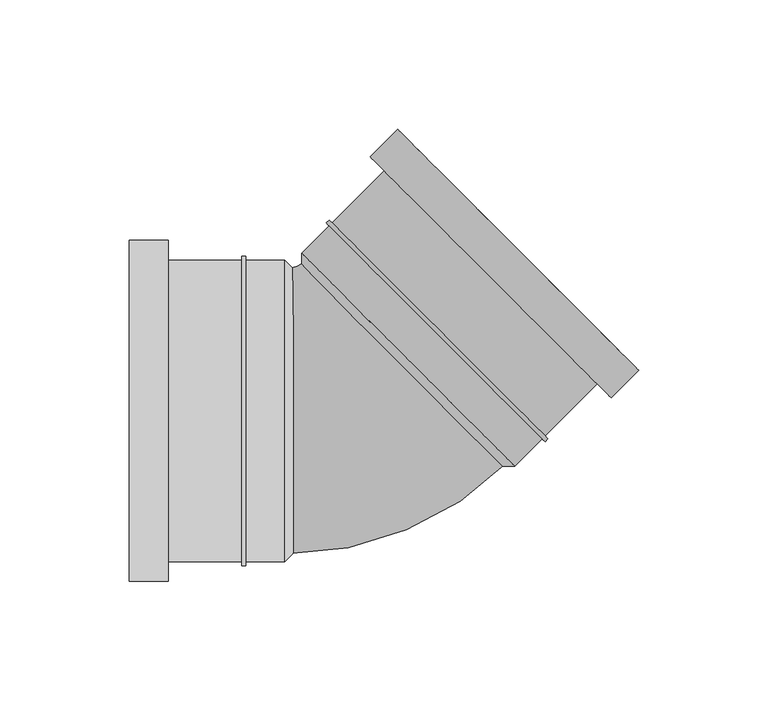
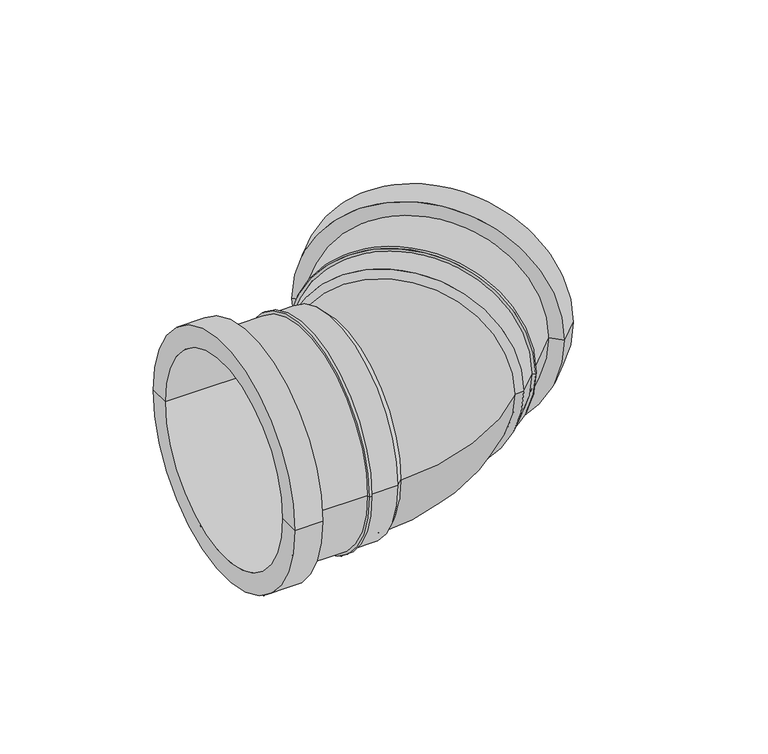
"""IFC4 building model written with IfcOpenShell, lengths in millimetres: pipe fitting geometry, UN_PIF_PP bend S-S_SH_PipeLife : Black, var. DN/OD (max. ø125, nested)."""

from ifc_helpers import new_model, si_unit, point, frame, origin, place, context, project, spatial, polyline, circle_curve, ellipse_curve, trimmed, source, transform, mapped, element, save
from ifc_brep_helpers import plane_surface, cylinder_surface, revolved_surface, advanced_brep


def pipe_fitting_378df008(model_context):
    return source(origin(), model_context, "Body", "AdvancedBrep", [
        advanced_brep(
        [(-24.7, 55.0, 0.0), (-24.7, -55.0, 0.0), (-28.0, -58.3, 0.0), (-28.0, 58.3, 0.0), (-88.2, 66.0, 0.0), (-88.2, -66.0, 0.0), (-88.2, -55.0, 0.0), (-88.2, 55.0, 0.0), (-73.15, 66.0, 0.0), (-73.15, -66.0, 0.0), (-73.15, 58.3, 0.0), (-73.15, -58.3, 0.0), (-44.6, 58.3, 0.0), (-44.6, -58.3, 0.0), (-44.6, 59.85, 0.0), (-44.6, -59.85, 0.0), (-43.05, 59.85, 0.0), (-43.05, -59.85, 0.0), (-43.05, 58.3, 0.0), (-43.05, -58.3, 0.0)],
        [
            (0, 1, circle_curve(frame((-24.7, 0.0, 0.0), z_axis=(-1.0, 0.0, 0.0), x_axis=(0.0, -1.0000000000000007, 0.0)), 55.0)),
            (1, 2),
            (2, 3, circle_curve(frame((-28.0, 0.0, 0.0), z_axis=(1.0, 0.0, 0.0), x_axis=(0.0, -1.0000000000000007, 0.0)), 58.3)),
            (3, 0),
            (1, 0, circle_curve(frame((-24.7, 0.0, 0.0), z_axis=(-1.0, 0.0, 0.0), x_axis=(0.0, -1.0000000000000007, 0.0)), 55.0)),
            (3, 2, circle_curve(frame((-28.0, 0.0, 0.0), z_axis=(1.0, 0.0, 0.0), x_axis=(0.0, -1.0000000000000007, 0.0)), 58.3)),
            (4, 5, circle_curve(frame((-88.2, 0.0, 0.0), z_axis=(-1.0, 0.0, 0.0), x_axis=(0.0, -1.0000000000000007, 0.0)), 66.0)),
            (5, 6),
            (6, 7, circle_curve(frame((-88.2, 0.0, 0.0), z_axis=(1.0, 0.0, 0.0), x_axis=(0.0, -1.0000000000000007, 0.0)), 55.0)),
            (7, 4),
            (5, 4, circle_curve(frame((-88.2, 0.0, 0.0), z_axis=(-1.0, 0.0, 0.0), x_axis=(0.0, -1.0000000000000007, 0.0)), 66.0)),
            (7, 6, circle_curve(frame((-88.2, 0.0, 0.0), z_axis=(1.0, 0.0, 0.0), x_axis=(0.0, -1.0000000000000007, 0.0)), 55.0)),
            (8, 9, circle_curve(frame((-73.15, 0.0, 0.0), z_axis=(-1.0, 0.0, 0.0), x_axis=(0.0, -1.0000000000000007, 0.0)), 66.0)),
            (9, 5),
            (4, 8),
            (9, 8, circle_curve(frame((-73.15, 0.0, 0.0), z_axis=(-1.0, 0.0, 0.0), x_axis=(0.0, -1.0000000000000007, 0.0)), 66.0)),
            (10, 11, circle_curve(frame((-73.15, 0.0, 0.0), z_axis=(-1.0, 0.0, 0.0), x_axis=(0.0, -1.0000000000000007, 0.0)), 58.3)),
            (11, 9),
            (8, 10),
            (11, 10, circle_curve(frame((-73.15, 0.0, 0.0), z_axis=(-1.0, 0.0, 0.0), x_axis=(0.0, -1.0000000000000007, 0.0)), 58.3)),
            (12, 13, circle_curve(frame((-44.6, 0.0, 0.0), z_axis=(-1.0, 0.0, 0.0), x_axis=(0.0, -1.0000000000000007, 0.0)), 58.3)),
            (13, 11),
            (10, 12),
            (13, 12, circle_curve(frame((-44.6, 0.0, 0.0), z_axis=(-1.0, 0.0, 0.0), x_axis=(0.0, -1.0000000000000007, 0.0)), 58.3)),
            (14, 15, circle_curve(frame((-44.6, 0.0, 0.0), z_axis=(-1.0, 0.0, 0.0), x_axis=(0.0, -1.0000000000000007, 0.0)), 59.85)),
            (15, 13),
            (12, 14),
            (15, 14, circle_curve(frame((-44.6, 0.0, 0.0), z_axis=(-1.0, 0.0, 0.0), x_axis=(0.0, -1.0000000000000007, 0.0)), 59.85)),
            (16, 17, circle_curve(frame((-43.05, 0.0, 0.0), z_axis=(-1.0, 0.0, 0.0), x_axis=(0.0, -1.0000000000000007, 0.0)), 59.85)),
            (17, 15),
            (14, 16),
            (17, 16, circle_curve(frame((-43.05, 0.0, 0.0), z_axis=(-1.0, 0.0, 0.0), x_axis=(0.0, -1.0000000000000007, 0.0)), 59.85)),
            (18, 19, circle_curve(frame((-43.05, 0.0, 0.0), z_axis=(-1.0, 0.0, 0.0), x_axis=(0.0, -1.0000000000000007, 0.0)), 58.3)),
            (19, 17),
            (16, 18),
            (19, 18, circle_curve(frame((-43.05, 0.0, 0.0), z_axis=(-1.0, 0.0, 0.0), x_axis=(0.0, -1.0000000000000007, 0.0)), 58.3)),
            (2, 19),
            (18, 3),
            (6, 1),
            (0, 7),
        ],
        [
            revolved_surface(polyline([(-28.0, -58.3, 0.0), (-24.7, -55.0, 0.0)]), (-88.2, 0.0, 0.0), (1.0000000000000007, 0.0, 0.0)),
            plane_surface(frame((-88.2, 0.0, 0.0), z_axis=(-1.0, 0.0, 0.0), x_axis=(0.0, -1.0, 0.0))),
            cylinder_surface(frame((-88.2, 0.0, 0.0), z_axis=(1.0000000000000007, 0.0, 0.0), x_axis=(0.0, -1.0000000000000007, 0.0)), 66.0),
            plane_surface(frame((-73.15, 0.0, 0.0), z_axis=(1.0, 0.0, 0.0), x_axis=(0.0, -1.0, 0.0))),
            cylinder_surface(frame((-88.2, 0.0, 0.0), z_axis=(1.0000000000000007, 0.0, 0.0), x_axis=(0.0, -1.0000000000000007, 0.0)), 58.3),
            plane_surface(frame((-44.6, 0.0, 0.0), z_axis=(-1.0, 0.0, 0.0), x_axis=(0.0, -1.0, 0.0))),
            cylinder_surface(frame((-88.2, 0.0, 0.0), z_axis=(1.0000000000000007, 0.0, 0.0), x_axis=(0.0, -1.0000000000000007, 0.0)), 59.85),
            plane_surface(frame((-43.05, 0.0, 0.0), z_axis=(1.0, 0.0, 0.0), x_axis=(0.0, -1.0, 0.0))),
            revolved_surface(polyline([(-24.699999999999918, -55.000000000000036, 0.0), (-88.2, -55.000000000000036, 0.0)]), (-88.2, 0.0, 0.0), (1.0000000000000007, 0.0, 0.0)),
        ],
        [
            (0, [[1, 2, 3, 4]]),
            (0, [[5, -4, 6, -2]]),
            (1, [[7, 8, 9, 10]]),
            (1, [[11, -10, 12, -8]]),
            (2, [[13, 14, -7, 15]]),
            (2, [[16, -15, -11, -14]]),
            (3, [[17, 18, -13, 19]]),
            (3, [[20, -19, -16, -18]]),
            (4, [[21, 22, -17, 23]]),
            (4, [[24, -23, -20, -22]]),
            (5, [[25, 26, -21, 27]]),
            (5, [[28, -27, -24, -26]]),
            (6, [[29, 30, -25, 31]]),
            (6, [[32, -31, -28, -30]]),
            (7, [[33, 34, -29, 35]]),
            (7, [[36, -35, -32, -34]]),
            (4, [[-3, 37, -33, 38]]),
            (4, [[-6, -38, -36, -37]]),
            (8, [[-9, 39, -1, 40]]),
            (8, [[-12, -40, -5, -39]]),
        ],
    ),
        advanced_brep(
        [(56.3564105, -21.4253355, 0.0), (-21.4253355, 56.3564105, 0.0), (-21.4253355, 61.0233152, 0.0), (61.0233152, -21.4253355, 0.0), (109.0358657, 15.6977705, 0.0), (15.6977705, 109.0358657, 0.0), (23.4759451, 101.2576911, 0.0), (101.2576911, 23.4759451, 0.0), (98.3939086, 5.0558135, 0.0), (5.0558135, 98.3939086, 0.0), (92.9491864, 10.5005357, 0.0), (10.5005357, 92.9491864, 0.0), (72.7612878, -9.6873629, 0.0), (-9.6873629, 72.7612878, 0.0), (73.8573033, -10.7833784, 0.0), (-10.7833784, 73.8573033, 0.0), (72.7612878, -11.8793939, 0.0), (-11.8793939, 72.7612878, 0.0), (71.6652723, -10.7833784, 0.0), (-10.7833784, 71.6652723, 0.0)],
        [
            (0, 1, circle_curve(frame((17.4655375, 17.4655375, 0.0), z_axis=(0.7071067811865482, 0.707106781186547, 0.0), x_axis=(-0.7071067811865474, 0.7071067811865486, 0.0)), 55.0)),
            (1, 2),
            (2, 3, circle_curve(frame((19.7989899, 19.7989899, 0.0), z_axis=(-0.7071067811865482, -0.707106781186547, 0.0), x_axis=(-0.7071067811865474, 0.7071067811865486, 0.0)), 58.3)),
            (3, 0),
            (1, 0, circle_curve(frame((17.4655375, 17.4655375, 0.0), z_axis=(0.7071067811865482, 0.707106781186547, 0.0), x_axis=(-0.7071067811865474, 0.7071067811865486, 0.0)), 55.0)),
            (3, 2, circle_curve(frame((19.7989899, 19.7989899, 0.0), z_axis=(-0.7071067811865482, -0.707106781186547, 0.0), x_axis=(-0.7071067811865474, 0.7071067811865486, 0.0)), 58.3)),
            (4, 5, circle_curve(frame((62.3668181, 62.3668181, 0.0), z_axis=(0.7071067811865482, 0.707106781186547, 0.0), x_axis=(-0.7071067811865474, 0.7071067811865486, 0.0)), 66.0)),
            (5, 6),
            (6, 7, circle_curve(frame((62.3668181, 62.3668181, 0.0), z_axis=(-0.7071067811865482, -0.707106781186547, 0.0), x_axis=(-0.7071067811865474, 0.7071067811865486, 0.0)), 55.0)),
            (7, 4),
            (5, 4, circle_curve(frame((62.3668181, 62.3668181, 0.0), z_axis=(0.7071067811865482, 0.707106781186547, 0.0), x_axis=(-0.7071067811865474, 0.7071067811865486, 0.0)), 66.0)),
            (7, 6, circle_curve(frame((62.3668181, 62.3668181, 0.0), z_axis=(-0.7071067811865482, -0.707106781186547, 0.0), x_axis=(-0.7071067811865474, 0.7071067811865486, 0.0)), 55.0)),
            (8, 9, circle_curve(frame((51.724861, 51.724861, 0.0), z_axis=(0.7071067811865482, 0.707106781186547, 0.0), x_axis=(-0.7071067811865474, 0.7071067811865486, 0.0)), 66.0)),
            (9, 5),
            (4, 8),
            (9, 8, circle_curve(frame((51.724861, 51.724861, 0.0), z_axis=(0.7071067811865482, 0.707106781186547, 0.0), x_axis=(-0.7071067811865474, 0.7071067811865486, 0.0)), 66.0)),
            (10, 11, circle_curve(frame((51.724861, 51.724861, 0.0), z_axis=(0.7071067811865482, 0.707106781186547, 0.0), x_axis=(-0.7071067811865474, 0.7071067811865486, 0.0)), 58.3)),
            (11, 9),
            (8, 10),
            (11, 10, circle_curve(frame((51.724861, 51.724861, 0.0), z_axis=(0.7071067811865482, 0.707106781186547, 0.0), x_axis=(-0.7071067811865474, 0.7071067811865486, 0.0)), 58.3)),
            (12, 13, circle_curve(frame((31.5369624, 31.5369624, 0.0), z_axis=(0.7071067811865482, 0.707106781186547, 0.0), x_axis=(-0.7071067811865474, 0.7071067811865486, 0.0)), 58.3)),
            (13, 11),
            (10, 12),
            (13, 12, circle_curve(frame((31.5369624, 31.5369624, 0.0), z_axis=(0.7071067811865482, 0.707106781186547, 0.0), x_axis=(-0.7071067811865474, 0.7071067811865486, 0.0)), 58.3)),
            (14, 15, circle_curve(frame((31.5369624, 31.5369624, 0.0), z_axis=(0.7071067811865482, 0.707106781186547, 0.0), x_axis=(-0.7071067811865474, 0.7071067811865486, 0.0)), 59.85)),
            (15, 13),
            (12, 14),
            (15, 14, circle_curve(frame((31.5369624, 31.5369624, 0.0), z_axis=(0.7071067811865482, 0.707106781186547, 0.0), x_axis=(-0.7071067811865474, 0.7071067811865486, 0.0)), 59.85)),
            (16, 17, circle_curve(frame((30.4409469, 30.4409469, 0.0), z_axis=(0.7071067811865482, 0.707106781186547, 0.0), x_axis=(-0.7071067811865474, 0.7071067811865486, 0.0)), 59.85)),
            (17, 15),
            (14, 16),
            (17, 16, circle_curve(frame((30.4409469, 30.4409469, 0.0), z_axis=(0.7071067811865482, 0.707106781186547, 0.0), x_axis=(-0.7071067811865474, 0.7071067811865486, 0.0)), 59.85)),
            (18, 19, circle_curve(frame((30.4409469, 30.4409469, 0.0), z_axis=(0.7071067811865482, 0.707106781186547, 0.0), x_axis=(-0.7071067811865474, 0.7071067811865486, 0.0)), 58.3)),
            (19, 17),
            (16, 18),
            (19, 18, circle_curve(frame((30.4409469, 30.4409469, 0.0), z_axis=(0.7071067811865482, 0.707106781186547, 0.0), x_axis=(-0.7071067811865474, 0.7071067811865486, 0.0)), 58.3)),
            (2, 19),
            (18, 3),
            (6, 1),
            (0, 7),
        ],
        [
            revolved_surface(polyline([(-21.4253355, 61.0233152, 0.0), (-21.4253355, 56.3564105, 0.0)]), (62.3668181, 62.3668181, 0.0), (-0.7071067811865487, -0.7071067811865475, 0.0)),
            plane_surface(frame((62.3668181, 62.3668181, 0.0), z_axis=(0.7071067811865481, 0.7071067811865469, 0.0), x_axis=(-0.7071067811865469, 0.7071067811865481, 0.0))),
            cylinder_surface(frame((62.3668181, 62.3668181, 0.0), z_axis=(-0.7071067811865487, -0.7071067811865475, 0.0), x_axis=(-0.7071067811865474, 0.7071067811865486, 0.0)), 66.0),
            plane_surface(frame((51.724861, 51.724861, 0.0), z_axis=(-0.7071067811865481, -0.7071067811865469, 0.0), x_axis=(-0.7071067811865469, 0.7071067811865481, 0.0))),
            cylinder_surface(frame((62.3668181, 62.3668181, 0.0), z_axis=(-0.7071067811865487, -0.7071067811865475, 0.0), x_axis=(-0.7071067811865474, 0.7071067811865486, 0.0)), 58.3),
            plane_surface(frame((31.5369624, 31.5369624, 0.0), z_axis=(0.7071067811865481, 0.7071067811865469, 0.0), x_axis=(-0.7071067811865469, 0.7071067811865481, 0.0))),
            cylinder_surface(frame((62.3668181, 62.3668181, 0.0), z_axis=(-0.7071067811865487, -0.7071067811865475, 0.0), x_axis=(-0.7071067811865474, 0.7071067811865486, 0.0)), 59.85),
            plane_surface(frame((30.4409469, 30.4409469, 0.0), z_axis=(-0.7071067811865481, -0.7071067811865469, 0.0), x_axis=(-0.7071067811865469, 0.7071067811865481, 0.0))),
            revolved_surface(polyline([(-21.425335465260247, 56.356410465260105, 0.0), (23.475945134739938, 101.2576910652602, 0.0)]), (62.3668181, 62.3668181, 0.0), (-0.7071067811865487, -0.7071067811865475, 0.0)),
        ],
        [
            (0, [[1, 2, 3, 4]]),
            (0, [[5, -4, 6, -2]]),
            (1, [[7, 8, 9, 10]]),
            (1, [[11, -10, 12, -8]]),
            (2, [[13, 14, -7, 15]]),
            (2, [[16, -15, -11, -14]]),
            (3, [[17, 18, -13, 19]]),
            (3, [[20, -19, -16, -18]]),
            (4, [[21, 22, -17, 23]]),
            (4, [[24, -23, -20, -22]]),
            (5, [[25, 26, -21, 27]]),
            (5, [[28, -27, -24, -26]]),
            (6, [[29, 30, -25, 31]]),
            (6, [[32, -31, -28, -30]]),
            (7, [[33, 34, -29, 35]]),
            (7, [[36, -35, -32, -34]]),
            (4, [[-3, 37, -33, 38]]),
            (4, [[-6, -38, -36, -37]]),
            (8, [[-9, 39, -1, 40]]),
            (8, [[-12, -40, -5, -39]]),
        ],
    ),
        advanced_brep(
        [(-28.0, -55.2, 0.0), (-28.0, 55.2, 0.0), (-27.0, -55.2, 0.0), (-27.0, 55.2, 0.0), (-19.9404112, 58.1241774, 0.0), (58.1241774, -19.9404112, 0.0), (58.8312842, -19.2333044, 0.0), (-19.2333044, 58.8312842, 0.0)],
        [
            (0, 1, circle_curve(frame((-28.0, 0.0, 0.0), z_axis=(-1.0, 0.0, 0.0), x_axis=(0.0, 1.0, 0.0)), 55.2)),
            (1, 0, circle_curve(frame((-28.0, 0.0, 0.0), z_axis=(-1.0, 0.0, 0.0), x_axis=(0.0, 1.0, 0.0)), 55.2)),
            (0, 2),
            (2, 3, circle_curve(frame((-27.0, 0.0, 0.0), z_axis=(-1.0, 0.0, 0.0), x_axis=(0.0, 1.0, 0.0)), 55.2)),
            (3, 1),
            (3, 2, circle_curve(frame((-27.0, 0.0, 0.0), z_axis=(-1.0, 0.0, 0.0), x_axis=(0.0, 1.0, 0.0)), 55.2)),
            (4, 3, circle_curve(frame((-27.0, 65.1837662, 0.0), z_axis=(0.0, 0.0, -1.0), x_axis=(0.0, -1.0, 0.0)), 9.9837662)),
            (2, 5, circle_curve(frame((-27.0, 65.1837662, 0.0), z_axis=(0.0, 0.0, 1.0), x_axis=(0.0, -1.0, 0.0)), 120.3837662)),
            (5, 4, circle_curve(frame((19.0918831, 19.0918831, 0.0), z_axis=(-0.7071067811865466, -0.7071067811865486, 0.0), x_axis=(-0.7071067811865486, 0.7071067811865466, 0.0)), 55.2)),
            (4, 5, circle_curve(frame((19.0918831, 19.0918831, 0.0), z_axis=(-0.7071067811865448, -0.7071067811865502, 0.0), x_axis=(-0.7071067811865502, 0.7071067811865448, 0.0)), 55.2)),
            (6, 7, circle_curve(frame((19.7989899, 19.7989899, 0.0), z_axis=(0.7071067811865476, 0.7071067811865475, 0.0), x_axis=(-0.7071067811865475, 0.7071067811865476, 0.0)), 55.2)),
            (7, 6, circle_curve(frame((19.7989899, 19.7989899, 0.0), z_axis=(0.7071067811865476, 0.7071067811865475, 0.0), x_axis=(-0.7071067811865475, 0.7071067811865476, 0.0)), 55.2)),
            (5, 6),
            (7, 4),
        ],
        [
            plane_surface(frame((-28.0, 0.0, 0.0), z_axis=(-1.0, 0.0, 0.0), x_axis=(0.0, 0.0, 1.0))),
            cylinder_surface(frame((-28.0, 0.0, 0.0), z_axis=(-1.0, 0.0, 0.0), x_axis=(0.0, 1.0, 0.0)), 55.2),
            revolved_surface(trimmed(ellipse_curve(frame((-27.0, 0.0, 0.0), z_axis=(-1.0, 0.0, 0.0), x_axis=(0.0, 1.0, 0.0)), 55.2, 55.2), [point((-27.0, -55.2, 0.0))], [point((-27.0, 55.2, 0.0))], True, "CARTESIAN"), (-27.0, 65.1837662, 0.0), (0.0, 0.0, 1.0)),
            revolved_surface(trimmed(ellipse_curve(frame((-27.0, 0.0, 0.0), z_axis=(-1.0, 0.0, 0.0), x_axis=(0.0, 1.0, 0.0)), 55.2, 55.2), [point((-27.0, 55.2, 0.0))], [point((-27.0, -55.2, 0.0))], True, "CARTESIAN"), (-27.0, 65.1837662, 0.0), (0.0, 0.0, 1.0)),
            plane_surface(frame((19.7989899, 19.7989899, 0.0), z_axis=(0.7071067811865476, 0.7071067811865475, 0.0), x_axis=(0.0, 0.0, 1.0))),
            cylinder_surface(frame((19.0918831, 19.0918831, 0.0), z_axis=(-0.7071067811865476, -0.7071067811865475, 0.0), x_axis=(-0.7071067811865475, 0.7071067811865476, 0.0)), 55.2),
        ],
        [
            (0, [[1, 2]]),
            (1, [[-1, 3, 4, 5]]),
            (1, [[-2, -5, 6, -3]]),
            (2, [[7, -4, 8, 9]]),
            (3, [[-8, -6, -7, 10]]),
            (4, [[11, 12]]),
            (5, [[-9, 13, -12, 14]]),
            (5, [[-10, -14, -11, -13]]),
        ],
    ),
    ])


if __name__ == "__main__":
    model = new_model("IFC4")
    model_context = context("Model", 3, world=origin())
    ifc_project = project(units=[si_unit("LENGTHUNIT", "METRE", prefix="MILLI")], contexts=[model_context])
    site = spatial("IfcSite", under=ifc_project)
    building = spatial("IfcBuilding", under=site)
    placement = place(None, origin())
    pipe_fitting_shape = pipe_fitting_378df008(model_context)
    element("IfcPipeFitting", 1, ObjectType="UN_PIF_PP bend S-S_SH_PipeLife : Black, var. DN/OD (max. ø125, nested)", at=placement, inside=building, context=model_context, shape_type="MappedRepresentation", body=[
        mapped(pipe_fitting_shape, transform((0.0, 0.0, 0.0), x_axis=(1.0, 0.0, 0.0), y_axis=(0.0, 1.0, 0.0), z_axis=(0.0, 0.0, 1.0))),
    ])
    save(model, "model.ifc")
